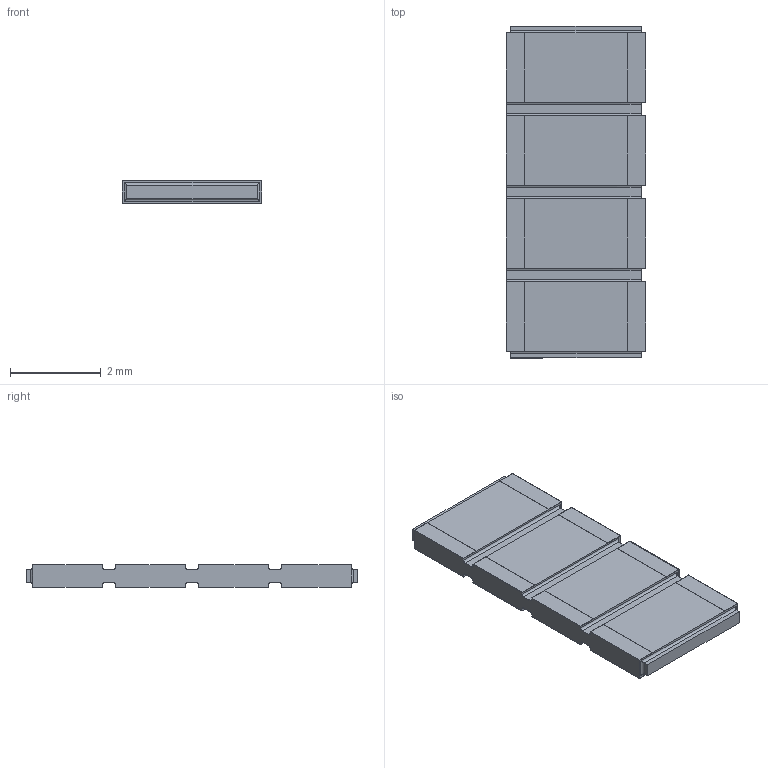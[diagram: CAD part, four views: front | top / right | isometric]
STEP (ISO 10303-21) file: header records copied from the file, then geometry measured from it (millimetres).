
FILE_DESCRIPTION(/* description */ (''),/* implementation_level */ '2;1');
FILE_NAME(/* name */ 'S:\DOCUMENT\AUTOCAD\3D_Modèles\10_3D-pour-VISHAY-COM\PRA\PRA182\PRA182-C2_à_C8\10_IGES\PRA182C4_B-or-N-or-G.stp',/* time_stamp */ '2017-12-19T09:06:16+01:00',/* author */ ('dparmentier'),/* organization */ ('unknown'),/* preprocessor_version */ 'ST-DEVELOPER v17',/* originating_system */ 'Autodesk Inventor 2018',/* authorisation */ '');
FILE_SCHEMA (('AUTOMOTIVE_DESIGN { 1 0 10303 214 3 1 1 }'));
Length unit declared in the file: millimetre
Products named in the file (1): PRA182C4_B-or-N-or-G
Bounding box: 3.06 x 7.3 x 0.5 mm (x, y, z)
Volume: 10.3 mm3; surface area: 88.8 mm2
Topology: 6 solids, 6 shells, 164 faces, 430 edges, 280 vertices
Faces by surface type: plane 126, cylinder 38
Entity records: 5018 total; most frequent: CARTESIAN_POINT 875, ORIENTED_EDGE 860, DIRECTION 816, EDGE_CURVE 430, LINE 374, VECTOR 374, VERTEX_POINT 280, AXIS2_PLACEMENT_3D 221
